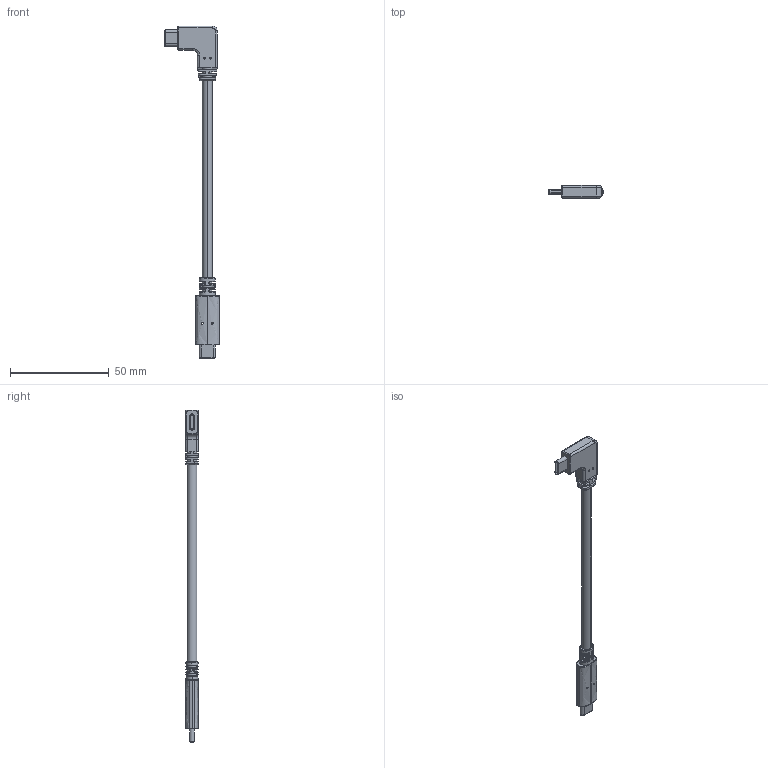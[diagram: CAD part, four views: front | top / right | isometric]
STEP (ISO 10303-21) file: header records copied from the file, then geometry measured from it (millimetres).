
FILE_DESCRIPTION (( 'STEP AP203' ), '1' );
FILE_NAME ('RR-CSCH-XXGRNTP.STEP', '2019-01-10T09:07:56', ( '' ), ( '' ), 'SwSTEP 2.0', 'SolidWorks 2018', '' );
FILE_SCHEMA (( 'CONFIG_CONTROL_DESIGN' ));
Length unit declared in the file: millimetre
Products named in the file (1): RR-CSCH-XXGRNTP
Bounding box: 27.77 x 6.4 x 168.4 mm (x, y, z)
Volume: 6445.5 mm3; surface area: 4695 mm2
Topology: 1 solids, 1 shells, 238 faces, 598 edges, 370 vertices
Faces by surface type: cylinder 92, plane 63, bspline 56, torus 19, cone 8
Entity records: 11631 total; most frequent: CARTESIAN_POINT 6372, ORIENTED_EDGE 1196, DIRECTION 927, EDGE_CURVE 598, VERTEX_POINT 370, AXIS2_PLACEMENT_3D 362, EDGE_LOOP 254, FACE_OUTER_BOUND 238
